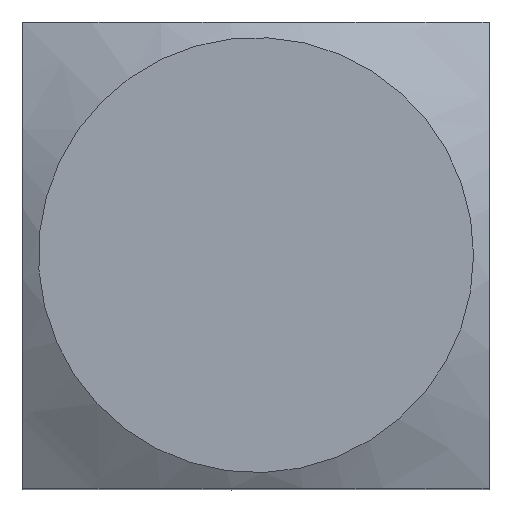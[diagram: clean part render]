
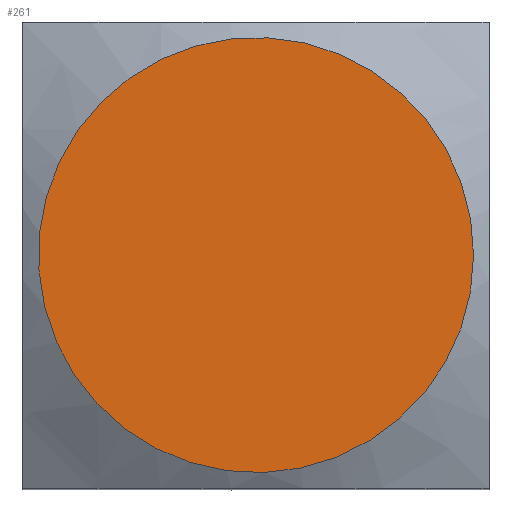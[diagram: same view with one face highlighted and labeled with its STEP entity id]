
A CAD part, top view. The second image highlights one B-rep face of the part: STEP entity #261.
In plain terms, the highlighted planar face has unit normal (0, 0, 1).
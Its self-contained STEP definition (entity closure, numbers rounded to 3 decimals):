
#41=PLANE('',#282);
#58=ORIENTED_EDGE('',*,*,#92,.T.);
#92=EDGE_CURVE('',#112,#112,#123,.T.);
#112=VERTEX_POINT('',#393);
#123=CIRCLE('',#283,14.);
#135=EDGE_LOOP('',(#58));
#156=FACE_BOUND('',#135,.T.);
#261=ADVANCED_FACE('',(#156),#41,.T.);
#282=AXIS2_PLACEMENT_3D('',#391,#312,#313);
#283=AXIS2_PLACEMENT_3D('',#392,#314,#315);
#312=DIRECTION('',(0.,0.,1.));
#313=DIRECTION('',(1.,0.,0.));
#314=DIRECTION('',(0.,0.,1.));
#315=DIRECTION('',(1.,0.,0.));
#391=CARTESIAN_POINT('',(0.,0.,0.));
#392=CARTESIAN_POINT('',(0.,0.,0.));
#393=CARTESIAN_POINT('',(14.,0.,0.));
